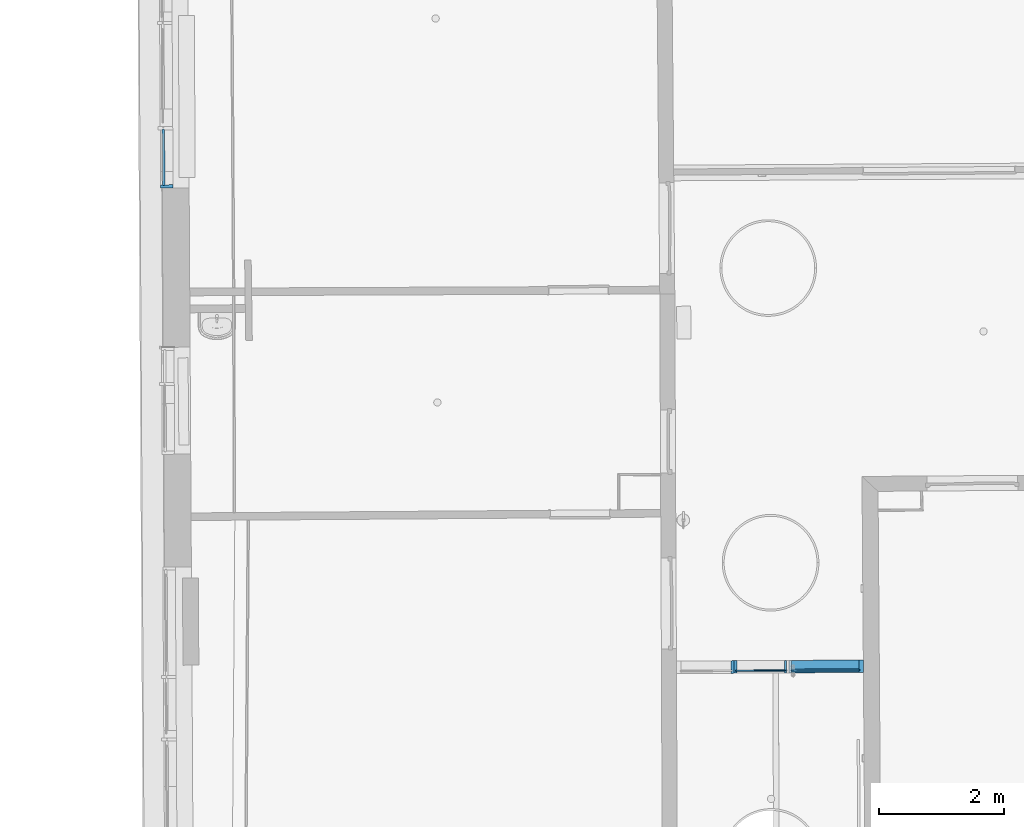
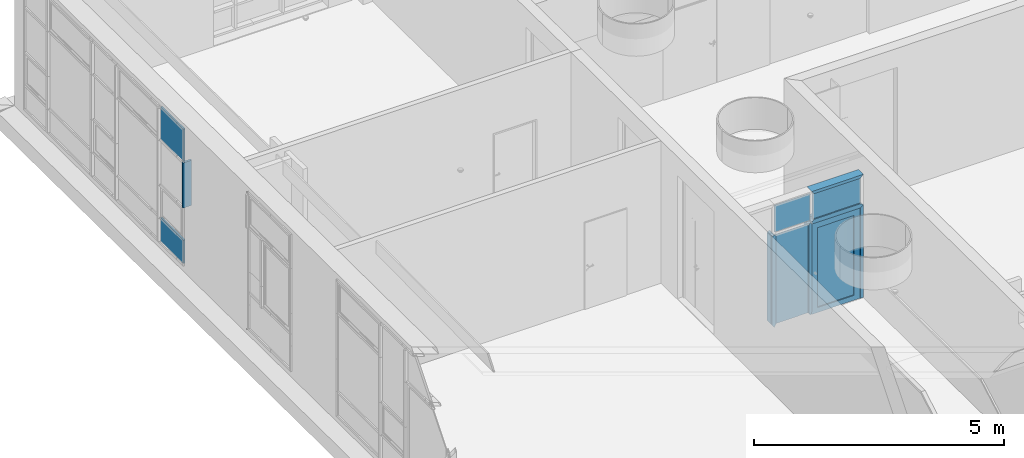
# One storey, part 98 of 158: 13 building element parts, 2 elements without a shape of their own.
"""IFC2X3 building model written with IfcOpenShell, lengths in metres."""

from ifc_helpers import new_model, entity, si_unit, converted_unit, derived_unit, money_unit, direction, frame, origin_with_axes, place, context, subcontext, project, spatial, faceted_brep, material, type_object, element, aggregate, save


model = new_model("IFC2X3")

# Units and contexts
model_context = context("Model", 3, precision=1e-05, world=origin_with_axes(), true_north=direction((0.0, 1.0)))
body_context = subcontext(model_context, "Body", "Model", "MODEL_VIEW")
ifc_project = project(units=[si_unit("LENGTHUNIT", "METRE"), si_unit("AREAUNIT", "SQUARE_METRE"), si_unit("VOLUMEUNIT", "CUBIC_METRE"), converted_unit("PLANEANGLEUNIT", "DEGREE", entity("IfcPlaneAngleMeasure", 0.0174532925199), si_unit("PLANEANGLEUNIT", "RADIAN"), dimensions=[0, 0, 0, 0, 0, 0, 0]), money_unit("EUR"), converted_unit("TIMEUNIT", "Year", entity("IfcTimeMeasure", 31556926.0), si_unit("TIMEUNIT", "SECOND"), dimensions=[0, 0, 1, 0, 0, 0, 0]), si_unit("MASSUNIT", "GRAM", prefix="KILO"), si_unit("THERMODYNAMICTEMPERATUREUNIT", "DEGREE_CELSIUS"), si_unit("LUMINOUSINTENSITYUNIT", "LUMEN"), si_unit("ENERGYUNIT", "JOULE", prefix="MEGA"), derived_unit("THERMALCONDUCTANCEUNIT", [(si_unit("POWERUNIT", "WATT"), 1), (si_unit("LENGTHUNIT", "METRE"), -1), (si_unit("THERMODYNAMICTEMPERATUREUNIT", "KELVIN"), -1)]), derived_unit("SPECIFICHEATCAPACITYUNIT", [(si_unit("ENERGYUNIT", "JOULE"), 1), (si_unit("MASSUNIT", "GRAM", prefix="KILO"), -1), (si_unit("THERMODYNAMICTEMPERATUREUNIT", "KELVIN"), -1)]), derived_unit("MASSDENSITYUNIT", [(si_unit("MASSUNIT", "GRAM", prefix="KILO"), 1), (si_unit("VOLUMEUNIT", "CUBIC_METRE"), -1)])], contexts=[model_context])

# Site, building, storey
site_placement = place(None, origin_with_axes())
site = spatial("IfcSite", under=ifc_project, at=site_placement, Name="Gelände", CompositionType="ELEMENT")
building_placement = place(site_placement, origin_with_axes())
building = spatial("IfcBuilding", under=site, at=building_placement, Name="Gebäude", CompositionType="ELEMENT")
storey_placement = place(building_placement, origin_with_axes())
storey = spatial("IfcBuildingStorey", under=building, at=storey_placement, Name="ERDGESCHOSS", CompositionType="ELEMENT", Elevation=0.0)

# Proxy, building element parts
building_element_proxy_type = type_object("IfcBuildingElementProxyType", Name="Fassadentyp", PredefinedType="NOTDEFINED")
proxy_1_placement = place(storey_placement, frame((-24.5086107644, 39.472840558, 1.345), z_axis=(0.0, 0.0, 1.0), x_axis=(1.0, 0.0, 0.0)))
proxy_1 = element("IfcBuildingElementProxy", 1, at=proxy_1_placement, inside=storey, type_object=building_element_proxy_type, Name="Fassade-002")
ifc_material_1 = material(Name="53_Metall, Aluminium")
building_element_part_1_placement = place(proxy_1_placement, origin_with_axes())
building_element_part_1 = element("IfcBuildingElementPart", 2, at=building_element_part_1_placement, material=ifc_material_1, Name="53_Metall, Aluminium", context=body_context, shape_type="Brep", body=[
    faceted_brep([(-0.387316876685, 0.0176181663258, 0.0), (-0.387316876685, 0.0176181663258, 2.21074708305), (-0.387347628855, 0.0226180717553, 2.21074708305), (-0.387347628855, 0.0226180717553, 0.0), (-0.342317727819, 0.017894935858, 0.0), (-0.342317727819, 0.017894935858, 2.16574708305), (-0.342348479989, 0.0228948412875, 2.16574708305), (-0.342348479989, 0.0228948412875, 0.0)], [[[0, 1, 2, 3]], [[0, 4, 5, 1]], [[1, 5, 6, 2]], [[3, 2, 6, 7]], [[4, 0, 3, 7]], [[5, 4, 7, 6]]]),
    faceted_brep([(0.736637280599, 0.0245311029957, 2.21074708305), (0.691638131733, 0.0242543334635, 2.16574708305), (0.691607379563, 0.029254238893, 2.16574708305), (0.736606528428, 0.0295310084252, 2.21074708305), (-0.387316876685, 0.0176181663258, 2.21074708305), (-0.342317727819, 0.017894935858, 2.16574708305), (-0.342348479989, 0.0228948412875, 2.16574708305), (-0.387347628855, 0.0226180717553, 2.21074708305)], [[[0, 1, 2, 3]], [[0, 4, 5, 1]], [[1, 5, 6, 2]], [[3, 2, 6, 7]], [[4, 0, 3, 7]], [[5, 4, 7, 6]]]),
    faceted_brep([(0.736637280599, 0.0245311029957, 0.0), (0.691638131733, 0.0242543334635, 0.0), (0.691607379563, 0.029254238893, 0.0), (0.736606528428, 0.0295310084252, 0.0), (0.736637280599, 0.0245311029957, 2.21074708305), (0.691638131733, 0.0242543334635, 2.16574708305), (0.691607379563, 0.029254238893, 2.16574708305), (0.736606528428, 0.0295310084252, 2.21074708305)], [[[0, 1, 2, 3]], [[0, 4, 5, 1]], [[1, 5, 6, 2]], [[3, 2, 6, 7]], [[4, 0, 3, 7]], [[5, 4, 7, 6]]]),
    faceted_brep([(-0.387009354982, -0.0323808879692, 0.0), (-0.387009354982, -0.0323808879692, 2.21074708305), (-0.387316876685, 0.0176181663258, 2.21074708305), (-0.387316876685, 0.0176181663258, 0.0), (-0.367009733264, -0.0322578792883, 0.0), (-0.367009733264, -0.0322578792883, 2.19074708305), (-0.367317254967, 0.0177411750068, 2.19074708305), (-0.367317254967, 0.0177411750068, 0.0)], [[[0, 1, 2, 3]], [[0, 4, 5, 1]], [[1, 5, 6, 2]], [[3, 2, 6, 7]], [[4, 0, 3, 7]], [[5, 4, 7, 6]]]),
    faceted_brep([(0.736944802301, -0.0254679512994, 2.21074708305), (0.716945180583, -0.0255909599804, 2.19074708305), (0.716637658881, 0.0244080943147, 2.19074708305), (0.736637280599, 0.0245311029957, 2.21074708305), (-0.387009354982, -0.0323808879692, 2.21074708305), (-0.367009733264, -0.0322578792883, 2.19074708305), (-0.367317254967, 0.0177411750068, 2.19074708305), (-0.387316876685, 0.0176181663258, 2.21074708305)], [[[0, 1, 2, 3]], [[0, 4, 5, 1]], [[1, 5, 6, 2]], [[3, 2, 6, 7]], [[4, 0, 3, 7]], [[5, 4, 7, 6]]]),
    faceted_brep([(0.736944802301, -0.0254679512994, 0.0), (0.716945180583, -0.0255909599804, 0.0), (0.716637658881, 0.0244080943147, 0.0), (0.736637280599, 0.0245311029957, 0.0), (0.736944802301, -0.0254679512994, 2.21074708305), (0.716945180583, -0.0255909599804, 2.19074708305), (0.716637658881, 0.0244080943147, 2.19074708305), (0.736637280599, 0.0245311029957, 2.21074708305)], [[[0, 1, 2, 3]], [[0, 4, 5, 1]], [[1, 5, 6, 2]], [[3, 2, 6, 7]], [[4, 0, 3, 7]], [[5, 4, 7, 6]]]),
    faceted_brep([(-0.40213207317, -0.0124735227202, 0.0), (-0.40213207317, -0.0124735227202, 2.22574707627), (-0.402255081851, 0.0075260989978, 2.22574707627), (-0.402255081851, 0.0075260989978, 0.0), (-0.387132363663, -0.0123812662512, 0.0), (-0.387132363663, -0.0123812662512, 2.21074708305), (-0.387255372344, 0.00761835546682, 2.21074708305), (-0.387255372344, 0.00761835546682, 0.0)], [[[0, 1, 2, 3]], [[0, 4, 5, 1]], [[1, 5, 6, 2]], [[3, 2, 6, 7]], [[4, 0, 3, 7]], [[5, 4, 7, 6]]]),
    faceted_brep([(-0.40213207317, -0.0124735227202, 2.22574707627), (0.751821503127, -0.00537607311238, 2.22574707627), (0.751698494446, 0.0146235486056, 2.22574707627), (-0.402255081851, 0.0075260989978, 2.22574707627), (-0.387132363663, -0.0123812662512, 2.21074708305), (0.73682179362, -0.0054683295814, 2.21074708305), (0.736698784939, 0.0145312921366, 2.21074708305), (-0.387255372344, 0.00761835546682, 2.21074708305)], [[[0, 1, 2, 3]], [[0, 4, 5, 1]], [[1, 5, 6, 2]], [[3, 2, 6, 7]], [[4, 0, 3, 7]], [[5, 4, 7, 6]]]),
    faceted_brep([(0.751821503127, -0.00537607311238, 2.22574707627), (0.751821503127, -0.00537607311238, 0.0), (0.751698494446, 0.0146235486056, 0.0), (0.751698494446, 0.0146235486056, 2.22574707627), (0.73682179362, -0.0054683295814, 2.21074708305), (0.73682179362, -0.0054683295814, 0.0), (0.736698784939, 0.0145312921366, 0.0), (0.736698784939, 0.0145312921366, 2.21074708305)], [[[0, 1, 2, 3]], [[0, 4, 5, 1]], [[1, 5, 6, 2]], [[3, 2, 6, 7]], [[4, 0, 3, 7]], [[5, 4, 7, 6]]]),
    faceted_brep([(0.596639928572, 0.0236700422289, 0.12), (0.596947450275, -0.0263290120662, 0.12), (0.596947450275, -0.0263290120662, 2.07074708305), (0.596639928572, 0.0236700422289, 2.07074708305), (0.716637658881, 0.0244080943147, 0.0), (0.716945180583, -0.0255909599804, 0.0), (0.716945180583, -0.0255909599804, 2.19074708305), (0.716637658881, 0.0244080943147, 2.19074708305)], [[[0, 1, 2, 3]], [[4, 5, 1, 0]], [[1, 5, 6, 2]], [[3, 2, 6, 7]], [[0, 3, 7, 4]], [[7, 6, 5, 4]]]),
    faceted_brep([(-0.367317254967, 0.0177411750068, 0.0), (-0.367009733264, -0.0322578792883, 0.0), (-0.367009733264, -0.0322578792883, 2.19074708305), (-0.367317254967, 0.0177411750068, 2.19074708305), (-0.247319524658, 0.0184792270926, 0.12), (-0.247012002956, -0.0315198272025, 0.12), (-0.247012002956, -0.0315198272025, 2.07074708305), (-0.247319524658, 0.0184792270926, 2.07074708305)], [[[0, 1, 2, 3]], [[4, 5, 1, 0]], [[1, 5, 6, 2]], [[3, 2, 6, 7]], [[0, 3, 7, 4]], [[7, 6, 5, 4]]]),
    faceted_brep([(-0.367317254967, 0.0177411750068, 0.0), (-0.367009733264, -0.0322578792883, 0.0), (-0.247012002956, -0.0315198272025, 0.12), (-0.247319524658, 0.0184792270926, 0.12), (0.716637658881, 0.0244080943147, 0.0), (0.716945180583, -0.0255909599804, 0.0), (0.596947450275, -0.0263290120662, 0.12), (0.596639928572, 0.0236700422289, 0.12)], [[[0, 1, 2, 3]], [[4, 5, 1, 0]], [[1, 5, 6, 2]], [[3, 2, 6, 7]], [[0, 3, 7, 4]], [[7, 6, 5, 4]]]),
    faceted_brep([(0.716637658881, 0.0244080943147, 2.19074708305), (0.716945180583, -0.0255909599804, 2.19074708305), (0.596947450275, -0.0263290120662, 2.07074708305), (0.596639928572, 0.0236700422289, 2.07074708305), (-0.367317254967, 0.0177411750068, 2.19074708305), (-0.367009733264, -0.0322578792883, 2.19074708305), (-0.247012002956, -0.0315198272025, 2.07074708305), (-0.247319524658, 0.0184792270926, 2.07074708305)], [[[0, 1, 2, 3]], [[4, 5, 1, 0]], [[1, 5, 6, 2]], [[3, 2, 6, 7]], [[0, 3, 7, 4]], [[7, 6, 5, 4]]]),
])
ifc_material_2 = material(Name="45_Glas, Normalglas")
building_element_part_2_placement = place(proxy_1_placement, origin_with_axes())
building_element_part_2 = element("IfcBuildingElementPart", 3, at=building_element_part_2_placement, material=ifc_material_2, Name="45_Glas, Normalglas", context=body_context, shape_type="Brep", body=[
    faceted_brep([(0.596701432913, 0.0136702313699, 0.12), (0.596799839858, -0.00232946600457, 0.12), (-0.247159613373, -0.00752028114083, 0.12), (-0.247258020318, 0.0084794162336, 0.12), (0.596701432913, 0.0136702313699, 2.07074708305), (0.596799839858, -0.00232946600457, 2.07074708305), (-0.247159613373, -0.00752028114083, 2.07074708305), (-0.247258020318, 0.0084794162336, 2.07074708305)], [[[0, 1, 2, 3]], [[4, 5, 1, 0]], [[1, 5, 6, 2]], [[3, 2, 6, 7]], [[0, 3, 7, 4]], [[7, 6, 5, 4]]]),
])
building_element_part_3_placement = place(proxy_1_placement, origin_with_axes())
building_element_part_3 = element("IfcBuildingElementPart", 4, at=building_element_part_3_placement, material=ifc_material_2, Name="45_Glas, Normalglas", context=body_context, shape_type="Brep", body=[
    faceted_brep([(-0.354504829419, -0.0121805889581, 2.95000000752), (0.751821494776, -0.00537607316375, 2.95000000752), (0.751698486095, 0.0146235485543, 2.95000000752), (-0.3546278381, 0.00781903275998, 2.95000000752), (-0.354504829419, -0.0121805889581, 2.295747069), (0.751821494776, -0.00537607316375, 2.295747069), (0.751698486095, 0.0146235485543, 2.295747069), (-0.3546278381, 0.00781903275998, 2.295747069)], [[[0, 1, 2, 3]], [[0, 4, 5, 1]], [[1, 5, 6, 2]], [[3, 2, 6, 7]], [[4, 0, 3, 7]], [[5, 4, 7, 6]]]),
])
building_element_part_4_placement = place(proxy_1_placement, origin_with_axes())
building_element_part_4 = element("IfcBuildingElementPart", 5, at=building_element_part_4_placement, material=ifc_material_2, Name="45_Glas, Normalglas", context=body_context, shape_type="Brep", body=[
    faceted_brep([(-1.23173322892, -0.0175760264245, 2.95000002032), (-0.41450369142, -0.0125496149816, 2.95000002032), (-0.414626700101, 0.00745000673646, 2.95000002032), (-1.2318562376, 0.00242359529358, 2.95000002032), (-1.23173322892, -0.0175760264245, 2.2957470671), (-0.422131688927, -0.0125965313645, 2.2957470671), (-0.41450369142, -0.0125496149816, 2.2957470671), (-0.414626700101, 0.00745000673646, 2.2957470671), (-0.422254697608, 0.00740309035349, 2.2957470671), (-1.2318562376, 0.00242359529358, 2.2957470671)], [[[0, 1, 2, 3]], [[0, 4, 5, 6, 1]], [[1, 6, 7, 2]], [[3, 2, 7, 8, 9]], [[4, 0, 3, 9]], [[5, 4, 9, 8]], [[6, 5, 8, 7]]]),
])
building_element_part_5_placement = place(proxy_1_placement, origin_with_axes())
building_element_part_5 = element("IfcBuildingElementPart", 6, at=building_element_part_5_placement, material=ifc_material_2, Name="45_Glas, Normalglas", context=body_context, shape_type="Brep", body=[
    faceted_brep([(-1.23173321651, -0.0175760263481, 2.22574707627), (-0.442131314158, -0.0127195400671, 2.22574707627), (-0.442254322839, 0.00728008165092, 2.22574707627), (-1.23185622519, 0.0024235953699, 2.22574707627), (-1.23173321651, -0.0175760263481, 0.0549999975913), (-0.442131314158, -0.0127195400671, 0.0549999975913), (-0.442254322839, 0.00728008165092, 0.0549999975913), (-1.23185622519, 0.0024235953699, 0.0549999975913)], [[[0, 1, 2, 3]], [[0, 4, 5, 1]], [[1, 5, 6, 2]], [[3, 2, 6, 7]], [[4, 0, 3, 7]], [[5, 4, 7, 6]]]),
])
building_element_part_6_placement = place(proxy_1_placement, origin_with_axes())
building_element_part_6 = element("IfcBuildingElementPart", 7, at=building_element_part_6_placement, material=ifc_material_1, Name="53_Metall, Aluminium", context=body_context, shape_type="Brep", body=[
    faceted_brep([(-0.349147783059, -0.0121476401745, 2.95000001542), (-0.339505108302, -0.0120883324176, 2.93500001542), (-0.339320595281, -0.0420877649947, 2.93500001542), (-0.384319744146, -0.0423645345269, 3.00500001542), (-0.385549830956, 0.157631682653, 3.00500001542), (-0.34055068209, 0.157908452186, 2.93500001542), (-0.339628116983, 0.0079112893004, 2.93500001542), (-0.34927079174, 0.0078519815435, 2.95000001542), (0.751821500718, -0.0053760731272, 2.95000001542), (0.73682178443, -0.00546832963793, 2.93500001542), (0.737006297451, -0.035467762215, 2.93500001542), (0.807004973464, -0.0350372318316, 3.00500001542), (0.805774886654, 0.164958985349, 3.00500001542), (0.735776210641, 0.164528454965, 2.93500001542), (0.736698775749, 0.0145312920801, 2.93500001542), (0.751698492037, 0.0146235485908, 2.95000001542)], [[[0, 1, 2, 3, 4, 5, 6, 7]], [[0, 8, 9, 1]], [[9, 10, 2, 1]], [[2, 10, 11, 3]], [[3, 11, 12, 4]], [[4, 12, 13, 5]], [[6, 5, 13, 14]], [[14, 15, 7, 6]], [[7, 15, 8, 0]], [[8, 15, 14, 13, 12, 11, 10, 9]]]),
])
building_element_part_7_placement = place(proxy_1_placement, origin_with_axes())
building_element_part_7 = element("IfcBuildingElementPart", 8, at=building_element_part_7_placement, material=ifc_material_1, Name="53_Metall, Aluminium", context=body_context, shape_type="Brep", body=[
    faceted_brep([(-0.384504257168, -0.0123651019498, 2.22574707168), (-0.384504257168, -0.0123651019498, 2.21074707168), (-0.384319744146, -0.0423645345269, 2.21074707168), (-0.384319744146, -0.0423645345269, 2.26074707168), (-0.385549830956, 0.157631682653, 2.26074707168), (-0.385549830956, 0.157631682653, 2.21074707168), (-0.384627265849, 0.00763451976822, 2.21074707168), (-0.384627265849, 0.00763451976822, 2.22574707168), (0.757821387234, -0.00533917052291, 2.22574707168), (0.73682178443, -0.00546832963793, 2.21074707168), (0.737006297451, -0.035467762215, 2.21074707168), (0.807004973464, -0.0350372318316, 2.26074707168), (0.737006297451, -0.035467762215, 2.31074707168), (-0.339320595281, -0.0420877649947, 2.31074707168), (-0.339505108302, -0.0120883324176, 2.31074707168), (-0.353004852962, -0.0121713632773, 2.29574707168), (-0.353127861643, 0.00782825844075, 2.29574707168), (-0.339628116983, 0.0079112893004, 2.31074707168), (-0.34055068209, 0.157908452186, 2.31074707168), (0.805774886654, 0.164958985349, 2.26074707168), (0.735776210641, 0.164528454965, 2.21074707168), (0.735776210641, 0.164528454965, 2.31074707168), (0.736698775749, 0.0145312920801, 2.21074707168), (0.757698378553, 0.0146604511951, 2.22574707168), (0.736698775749, 0.0145312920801, 2.31074707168), (0.757698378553, 0.0146604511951, 2.29574707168), (0.757821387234, -0.00533917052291, 2.29574707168), (0.73682178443, -0.00546832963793, 2.31074707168)], [[[0, 1, 2, 3, 4, 5, 6, 7]], [[1, 0, 8, 9]], [[1, 9, 10, 2]], [[11, 12, 13, 3, 2, 10]], [[3, 13, 14, 15, 16, 17, 18, 4]], [[19, 20, 5, 4, 18, 21]], [[22, 6, 5, 20]], [[7, 6, 22, 23]], [[0, 7, 23, 8]], [[23, 22, 20, 19, 11, 10, 9, 8]], [[21, 24, 25, 26, 27, 12, 11, 19]], [[14, 13, 12, 27]], [[14, 27, 26, 15]], [[15, 26, 25, 16]], [[17, 16, 25, 24]], [[24, 21, 18, 17]]]),
])
building_element_part_8_placement = place(proxy_1_placement, origin_with_axes())
building_element_part_8 = element("IfcBuildingElementPart", 9, at=building_element_part_8_placement, material=ifc_material_1, Name="53_Metall, Aluminium", context=body_context, shape_type="Brep", body=[
    faceted_brep([(-1.29173209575, -0.0179450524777, 2.22741373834), (-1.30673181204, -0.0180373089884, 2.21074707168), (-1.30654729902, -0.0480367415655, 2.21074707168), (-1.26154815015, -0.0477599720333, 2.26074707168), (-1.26277823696, 0.152236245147, 2.26074707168), (-1.30777738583, 0.151959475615, 2.21074707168), (-1.30685482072, 0.00196231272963, 2.21074707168), (-1.29185510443, 0.00205456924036, 2.22741373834), (-1.29173209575, -0.0179450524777, 0.0466666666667), (-1.30673181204, -0.0180373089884, 0.07), (-1.30654729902, -0.0480367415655, 0.07), (-1.26154815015, -0.0477599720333, 0.0), (-1.21654900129, -0.0474832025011, 0.07), (-1.21654900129, -0.0474832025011, 2.21074707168), (-1.21673351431, -0.017483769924, 2.21074707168), (-1.2317332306, -0.0175760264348, 2.22741373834), (-1.23185623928, 0.00242359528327, 2.22741373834), (-1.21685652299, 0.00251585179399, 2.21074707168), (-1.2177790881, 0.152513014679, 2.21074707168), (-1.26277823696, 0.152236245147, 0.0), (-1.30777738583, 0.151959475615, 0.07), (-1.2177790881, 0.152513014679, 0.07), (-1.30685482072, 0.00196231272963, 0.07), (-1.29185510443, 0.00205456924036, 0.0466666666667), (-1.21685652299, 0.00251585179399, 0.07), (-1.23185623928, 0.00242359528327, 0.0466666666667), (-1.2317332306, -0.0175760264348, 0.0466666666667), (-1.21673351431, -0.017483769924, 0.07)], [[[0, 1, 2, 3, 4, 5, 6, 7]], [[1, 0, 8, 9]], [[1, 9, 10, 2]], [[11, 12, 13, 3, 2, 10]], [[3, 13, 14, 15, 16, 17, 18, 4]], [[19, 20, 5, 4, 18, 21]], [[22, 6, 5, 20]], [[7, 6, 22, 23]], [[0, 7, 23, 8]], [[23, 22, 20, 19, 11, 10, 9, 8]], [[21, 24, 25, 26, 27, 12, 11, 19]], [[14, 13, 12, 27]], [[14, 27, 26, 15]], [[15, 26, 25, 16]], [[17, 16, 25, 24]], [[24, 21, 18, 17]]]),
])
building_element_part_9_placement = place(proxy_1_placement, origin_with_axes())
building_element_part_9 = element("IfcBuildingElementPart", 10, at=building_element_part_9_placement, material=ifc_material_1, Name="53_Metall, Aluminium", context=body_context, shape_type="Brep", body=[
    faceted_brep([(0.751821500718, -0.0053760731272, 2.22146135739), (0.73682178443, -0.00546832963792, 2.21074707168), (0.737006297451, -0.035467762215, 2.21074707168), (0.807004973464, -0.0350372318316, 2.26074707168), (0.805774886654, 0.164958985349, 2.26074707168), (0.735776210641, 0.164528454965, 2.21074707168), (0.736698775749, 0.0145312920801, 2.21074707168), (0.751698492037, 0.0146235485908, 2.22146135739), (0.751821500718, -0.0053760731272, 0.0), (0.73682178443, -0.00546832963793, 0.0), (0.737006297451, -0.035467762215, 0.0), (0.807004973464, -0.0350372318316, 0.0), (0.805774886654, 0.164958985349, 0.0), (0.735776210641, 0.164528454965, 0.0), (0.736698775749, 0.0145312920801, 0.0), (0.751698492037, 0.0146235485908, 0.0)], [[[0, 1, 2, 3, 4, 5, 6, 7]], [[0, 8, 9, 1]], [[9, 10, 2, 1]], [[3, 2, 10, 11]], [[4, 3, 11, 12]], [[5, 4, 12, 13]], [[6, 5, 13, 14]], [[14, 15, 7, 6]], [[7, 15, 8, 0]], [[8, 15, 14, 13, 12, 11, 10, 9]]]),
])
building_element_part_10_placement = place(proxy_1_placement, origin_with_axes())
building_element_part_10 = element("IfcBuildingElementPart", 11, at=building_element_part_10_placement, material=ifc_material_1, Name="53_Metall, Aluminium", context=body_context, shape_type="Brep", body=[
    faceted_brep([(-0.442131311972, -0.0127195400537, 2.23217564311), (-0.45713102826, -0.0128117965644, 2.21074707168), (-0.456946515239, -0.0428112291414, 2.21074707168), (-0.421947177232, -0.0425959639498, 2.26074707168), (-0.423177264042, 0.157400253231, 2.26074707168), (-0.458176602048, 0.157184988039, 2.21074707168), (-0.457254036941, 0.00718782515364, 2.21074707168), (-0.442254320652, 0.00728008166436, 2.23217564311), (-0.442131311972, -0.0127195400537, 0.04), (-0.45713102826, -0.0128117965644, 0.07), (-0.456946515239, -0.0428112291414, 0.07), (-0.421947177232, -0.0425959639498, 0.0), (-0.386947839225, -0.0423806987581, 0.07), (-0.386947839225, -0.0423806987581, 2.21074707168), (-0.387132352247, -0.012381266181, 2.21074707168), (-0.402132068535, -0.0124735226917, 2.23217564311), (-0.402255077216, 0.0075260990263, 2.23217564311), (-0.387255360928, 0.00761835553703, 2.21074707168), (-0.388177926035, 0.157615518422, 2.21074707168), (-0.423177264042, 0.157400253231, 0.0), (-0.458176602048, 0.157184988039, 0.07), (-0.388177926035, 0.157615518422, 0.07), (-0.457254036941, 0.00718782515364, 0.07), (-0.442254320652, 0.00728008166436, 0.04), (-0.387255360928, 0.00761835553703, 0.07), (-0.402255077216, 0.0075260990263, 0.04), (-0.402132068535, -0.0124735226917, 0.04), (-0.387132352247, -0.012381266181, 0.07)], [[[0, 1, 2, 3, 4, 5, 6, 7]], [[1, 0, 8, 9]], [[1, 9, 10, 2]], [[11, 12, 13, 3, 2, 10]], [[3, 13, 14, 15, 16, 17, 18, 4]], [[19, 20, 5, 4, 18, 21]], [[22, 6, 5, 20]], [[7, 6, 22, 23]], [[0, 7, 23, 8]], [[23, 22, 20, 19, 11, 10, 9, 8]], [[21, 24, 25, 26, 27, 12, 11, 19]], [[14, 13, 12, 27]], [[14, 27, 26, 15]], [[15, 26, 25, 16]], [[17, 16, 25, 24]], [[24, 21, 18, 17]]]),
])
aggregate(proxy_1, [building_element_part_1, building_element_part_2, building_element_part_3, building_element_part_4, building_element_part_5, building_element_part_6, building_element_part_7, building_element_part_8, building_element_part_9, building_element_part_10])

proxy_2_placement = place(storey_placement, frame((-34.889376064, 47.589579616, 1.34043902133), z_axis=(0.0, 0.0, 1.0), x_axis=(1.0, 0.0, 0.0)))
proxy_2 = element("IfcBuildingElementProxy", 12, at=proxy_2_placement, inside=storey, type_object=building_element_proxy_type, Name="Fassade-002")
building_element_part_11_placement = place(proxy_2_placement, origin_with_axes())
building_element_part_11 = element("IfcBuildingElementPart", 13, at=building_element_part_11_placement, material=ifc_material_2, Name="45_Glas, Normalglas", context=body_context, shape_type="Brep", body=[
    faceted_brep([(0.0221753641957, -0.370858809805, 3.31499990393), (0.0208299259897, -0.141450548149, 3.31499990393), (-0.0191693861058, -0.141685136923, 3.31499990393), (-0.0178239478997, -0.371093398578, 3.31499990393), (0.0221753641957, -0.370858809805, 2.53000003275), (0.0208299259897, -0.141450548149, 2.53000003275), (0.016847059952, 0.537660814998, 2.53000003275), (0.016847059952, 0.537660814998, 3.31499990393), (-0.0231522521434, 0.537426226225, 3.31499990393), (-0.0231522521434, 0.537426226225, 2.53000003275), (-0.0191693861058, -0.141685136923, 2.53000003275), (-0.0178239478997, -0.371093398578, 2.53000003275)], [[[0, 1, 2, 3]], [[0, 4, 5, 6, 7, 1]], [[1, 7, 8, 2]], [[3, 2, 8, 9, 10, 11]], [[4, 0, 3, 11]], [[5, 4, 11, 10]], [[6, 5, 10, 9]], [[7, 6, 9, 8]]]),
])
building_element_part_12_placement = place(proxy_2_placement, origin_with_axes())
building_element_part_12 = element("IfcBuildingElementPart", 14, at=building_element_part_12_placement, material=ifc_material_2, Name="45_Glas, Normalglas", context=body_context, shape_type="Brep", body=[
    faceted_brep([(0.0221753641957, -0.370858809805, 0.610000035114), (0.0208299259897, -0.141450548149, 0.610000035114), (-0.0191693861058, -0.141685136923, 0.610000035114), (-0.0178239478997, -0.371093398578, 0.610000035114), (0.0221753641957, -0.370858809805, 0.035000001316), (0.0208299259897, -0.141450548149, 0.035000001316), (0.016847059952, 0.537660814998, 0.035000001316), (0.0168470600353, 0.537660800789, 0.610000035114), (-0.0231522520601, 0.537426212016, 0.610000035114), (-0.0231522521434, 0.537426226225, 0.035000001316), (-0.0191693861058, -0.141685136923, 0.035000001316), (-0.0178239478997, -0.371093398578, 0.035000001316)], [[[0, 1, 2, 3]], [[0, 4, 5, 6, 7, 1]], [[1, 7, 8, 2]], [[3, 2, 8, 9, 10, 11]], [[4, 0, 3, 11]], [[5, 4, 11, 10]], [[6, 5, 10, 9]], [[7, 6, 9, 8]]]),
])
building_element_part_13_placement = place(proxy_2_placement, origin_with_axes())
building_element_part_13 = element("IfcBuildingElementPart", 15, at=building_element_part_13_placement, material=ifc_material_1, Name="53_Metall, Aluminium", context=body_context, shape_type="Brep", body=[
    faceted_brep([(0.0121755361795, -0.370917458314, 2.52000003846), (-0.00782411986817, -0.371034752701, 2.52000003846), (-0.00791209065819, -0.356035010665, 2.52000003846), (-0.0479114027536, -0.356269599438, 2.52000003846), (-0.0476181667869, -0.406268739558, 2.52000003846), (0.15237839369, -0.405095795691, 2.52000003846), (0.152085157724, -0.355096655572, 2.52000003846), (0.0120875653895, -0.355917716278, 2.52000003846), (0.0121755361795, -0.370917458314, 1.42000003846), (-0.00782411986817, -0.371034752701, 1.42000003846), (-0.00791209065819, -0.356035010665, 1.42000003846), (-0.0479114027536, -0.356269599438, 1.42000003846), (-0.0476181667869, -0.406268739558, 1.42000003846), (0.15237839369, -0.405095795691, 1.42000003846), (0.152085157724, -0.355096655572, 1.42000003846), (0.0120875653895, -0.355917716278, 1.42000003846)], [[[0, 1, 2, 3, 4, 5, 6, 7]], [[1, 0, 8, 9]], [[10, 2, 1, 9]], [[2, 10, 11, 3]], [[12, 4, 3, 11]], [[13, 5, 4, 12]], [[14, 6, 5, 13]], [[15, 7, 6, 14]], [[0, 7, 15, 8]], [[8, 15, 14, 13, 12, 11, 10, 9]]]),
])
aggregate(proxy_2, [building_element_part_11, building_element_part_12, building_element_part_13])

save(model, "model.ifc")
